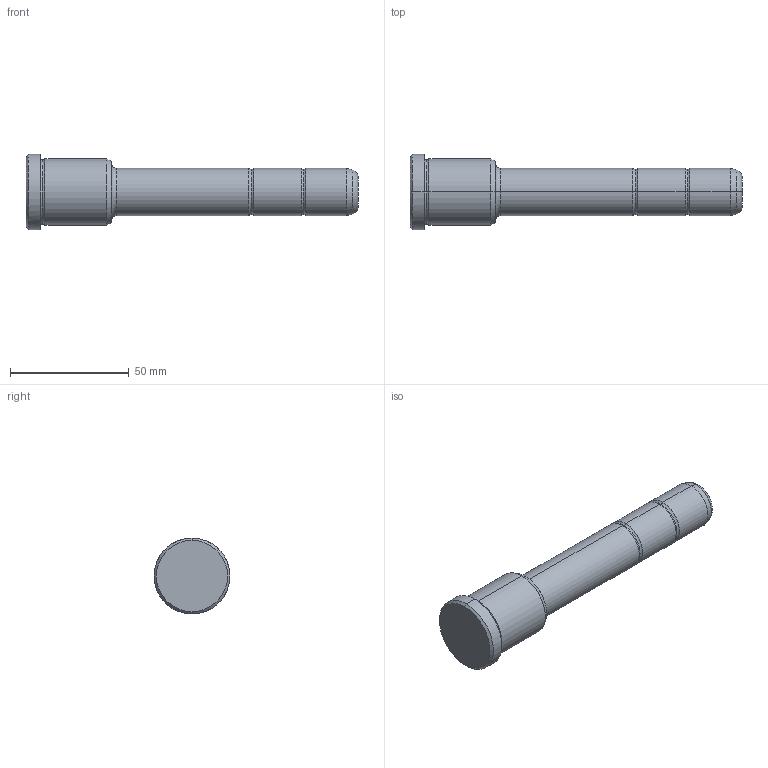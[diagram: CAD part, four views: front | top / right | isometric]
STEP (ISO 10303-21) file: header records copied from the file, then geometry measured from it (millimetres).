
FILE_DESCRIPTION(('CATIA V5 STEP Exchange'),'2;1');
FILE_NAME('C:\Users\Utente\Desktop\IO LAVORO\3D X SITO CF\X SITO\PLASTICA\351\351-20X36X140.stp','2021-08-27T11:57:18+00:00',('none'),('none'),'CATIA Version 5 Release 20 GA (IN-10)','CATIA V5 STEP AP203','none');
FILE_SCHEMA(('CONFIG_CONTROL_DESIGN'));
Length unit declared in the file: millimetre
Products named in the file (1): 351-20X36X140
Bounding box: 140 x 32 x 32 mm (x, y, z)
Volume: 55478.4 mm3; surface area: 11119.2 mm2
Topology: 1 solids, 1 shells, 36 faces, 102 edges, 70 vertices
Faces by surface type: torus 16, cylinder 10, cone 6, plane 4
Entity records: 1292 total; most frequent: CARTESIAN_POINT 321, ORIENTED_EDGE 204, DIRECTION 166, AXIS2_PLACEMENT_3D 115, EDGE_CURVE 102, CIRCLE 78, VERTEX_POINT 70, EDGE_LOOP 38
